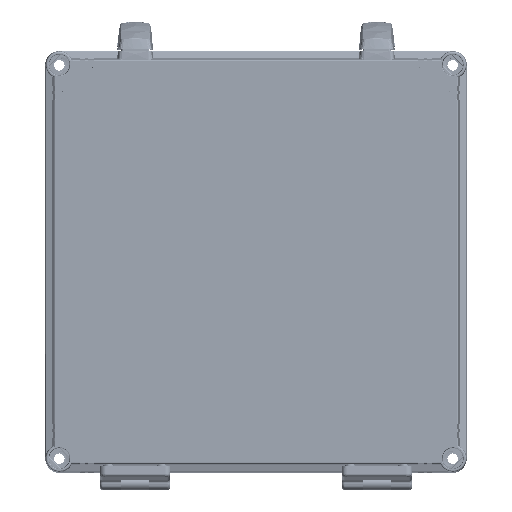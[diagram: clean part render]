
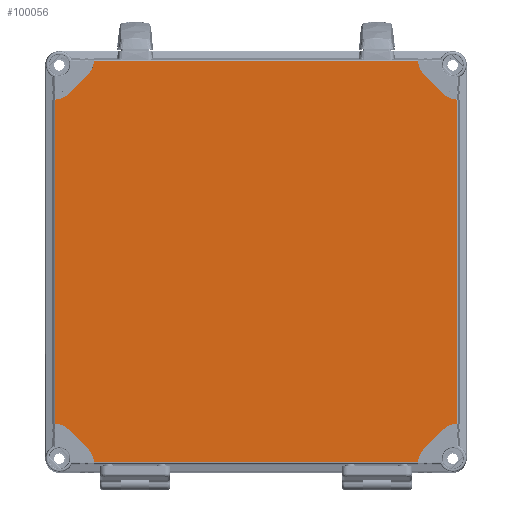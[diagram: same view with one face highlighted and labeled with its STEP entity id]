
A CAD part, top view. The second image highlights one B-rep face of the part: STEP entity #100056.
In plain terms, the highlighted planar face has unit normal (0, 0, 1).
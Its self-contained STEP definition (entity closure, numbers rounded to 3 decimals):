
#85835=CARTESIAN_POINT('',(-129.346,-143.3,30.));
#85836=DIRECTION('',(0.,0.,1.));
#85837=DIRECTION('',(0.999,0.032,0.));
#85838=AXIS2_PLACEMENT_3D('',#85835,#85836,#85837);
#85843=DIRECTION('',(-0.707,0.707,0.));
#85844=VECTOR('',#85843,19.734);
#85845=CARTESIAN_POINT('',(-119.447,-133.401,30.));
#85846=LINE('',#85845,#85844);
#85850=CARTESIAN_POINT('',(-143.3,-129.346,30.));
#85851=DIRECTION('',(0.,0.,1.));
#85852=DIRECTION('',(0.707,0.707,0.));
#85853=AXIS2_PLACEMENT_3D('',#85850,#85851,#85852);
#85858=CARTESIAN_POINT('',(-143.3,129.346,30.));
#85859=DIRECTION('',(0.,0.,1.));
#85860=DIRECTION('',(0.032,-0.999,0.));
#85861=AXIS2_PLACEMENT_3D('',#85858,#85859,#85860);
#85866=DIRECTION('',(0.707,0.707,0.));
#85867=VECTOR('',#85866,19.734);
#85868=CARTESIAN_POINT('',(-133.401,119.447,30.));
#85869=LINE('',#85868,#85867);
#85873=CARTESIAN_POINT('',(-129.346,143.3,30.));
#85874=DIRECTION('',(0.,0.,1.));
#85875=DIRECTION('',(0.707,-0.707,0.));
#85876=AXIS2_PLACEMENT_3D('',#85873,#85874,#85875);
#85881=DIRECTION('',(1.,0.,0.));
#85882=VECTOR('',#85881,230.707);
#85883=CARTESIAN_POINT('',(-115.353,142.851,30.));
#85884=LINE('',#85883,#85882);
#85888=CARTESIAN_POINT('',(129.346,143.3,30.));
#85889=DIRECTION('',(0.,0.,1.));
#85890=DIRECTION('',(-0.999,-0.032,0.));
#85891=AXIS2_PLACEMENT_3D('',#85888,#85889,#85890);
#85896=DIRECTION('',(0.707,-0.707,0.));
#85897=VECTOR('',#85896,19.734);
#85898=CARTESIAN_POINT('',(119.447,133.401,30.));
#85899=LINE('',#85898,#85897);
#85903=CARTESIAN_POINT('',(143.3,129.346,30.));
#85904=DIRECTION('',(0.,0.,1.));
#85905=DIRECTION('',(-0.707,-0.707,0.));
#85906=AXIS2_PLACEMENT_3D('',#85903,#85904,#85905);
#85911=CARTESIAN_POINT('',(143.3,-129.346,30.));
#85912=DIRECTION('',(0.,0.,1.));
#85913=DIRECTION('',(-0.032,0.999,0.));
#85914=AXIS2_PLACEMENT_3D('',#85911,#85912,#85913);
#85919=DIRECTION('',(-0.707,-0.707,0.));
#85920=VECTOR('',#85919,19.734);
#85921=CARTESIAN_POINT('',(133.401,-119.447,30.));
#85922=LINE('',#85921,#85920);
#85926=CARTESIAN_POINT('',(129.346,-143.3,30.));
#85927=DIRECTION('',(0.,0.,1.));
#85928=DIRECTION('',(-0.707,0.707,0.));
#85929=AXIS2_PLACEMENT_3D('',#85926,#85927,#85928);
#89293=DIRECTION('',(1.,0.,0.));
#89294=VECTOR('',#89293,230.707);
#89295=CARTESIAN_POINT('',(-115.353,-142.851,30.));
#89296=LINE('',#89295,#89294);
#89300=CARTESIAN_POINT('',(115.353,-142.851,30.));
#89331=CARTESIAN_POINT('',(-115.353,-142.851,30.));
#89357=DIRECTION('',(0.,1.,0.));
#89358=VECTOR('',#89357,230.707);
#89359=CARTESIAN_POINT('',(142.851,-115.353,30.));
#89360=LINE('',#89359,#89358);
#89428=CARTESIAN_POINT('',(-115.353,142.851,30.));
#89466=CARTESIAN_POINT('',(115.353,142.851,30.));
#89492=DIRECTION('',(0.,-1.,0.));
#89493=VECTOR('',#89492,230.707);
#89494=CARTESIAN_POINT('',(-142.851,115.353,30.));
#89495=LINE('',#89494,#89493);
#96434=CARTESIAN_POINT('',(119.447,133.401,30.));
#96435=CARTESIAN_POINT('',(133.401,119.447,30.));
#96436=VERTEX_POINT('',#96434);
#96437=VERTEX_POINT('',#96435);
#96454=CARTESIAN_POINT('',(-133.401,119.447,30.));
#96455=CARTESIAN_POINT('',(-119.447,133.401,30.));
#96456=VERTEX_POINT('',#96454);
#96457=VERTEX_POINT('',#96455);
#96470=CARTESIAN_POINT('',(133.401,-119.447,30.));
#96471=CARTESIAN_POINT('',(119.447,-133.401,30.));
#96472=VERTEX_POINT('',#96470);
#96473=VERTEX_POINT('',#96471);
#96482=CARTESIAN_POINT('',(-119.447,-133.401,30.));
#96483=CARTESIAN_POINT('',(-133.401,-119.447,30.));
#96484=VERTEX_POINT('',#96482);
#96485=VERTEX_POINT('',#96483);
#96792=VERTEX_POINT('',#89466);
#96804=CARTESIAN_POINT('',(142.851,-115.353,30.));
#96805=CARTESIAN_POINT('',(142.851,115.353,30.));
#96806=VERTEX_POINT('',#96804);
#96807=VERTEX_POINT('',#96805);
#96815=VERTEX_POINT('',#89428);
#96860=CARTESIAN_POINT('',(-142.851,115.353,30.));
#96861=CARTESIAN_POINT('',(-142.851,-115.353,30.));
#96862=VERTEX_POINT('',#96860);
#96863=VERTEX_POINT('',#96861);
#96916=VERTEX_POINT('',#89331);
#96917=VERTEX_POINT('',#89300);
#100017=CARTESIAN_POINT('',(0.,0.,30.));
#100018=DIRECTION('',(0.,0.,1.));
#100019=DIRECTION('',(1.,0.,0.));
#100020=AXIS2_PLACEMENT_3D('',#100017,#100018,#100019);
#100021=PLANE('',#100020);
#100023=ORIENTED_EDGE('',*,*,#100022,.F.);
#100025=ORIENTED_EDGE('',*,*,#100024,.T.);
#100027=ORIENTED_EDGE('',*,*,#100026,.T.);
#100029=ORIENTED_EDGE('',*,*,#100028,.T.);
#100031=ORIENTED_EDGE('',*,*,#100030,.F.);
#100033=ORIENTED_EDGE('',*,*,#100032,.T.);
#100035=ORIENTED_EDGE('',*,*,#100034,.T.);
#100037=ORIENTED_EDGE('',*,*,#100036,.T.);
#100039=ORIENTED_EDGE('',*,*,#100038,.T.);
#100041=ORIENTED_EDGE('',*,*,#100040,.T.);
#100043=ORIENTED_EDGE('',*,*,#100042,.T.);
#100045=ORIENTED_EDGE('',*,*,#100044,.T.);
#100047=ORIENTED_EDGE('',*,*,#100046,.F.);
#100049=ORIENTED_EDGE('',*,*,#100048,.T.);
#100051=ORIENTED_EDGE('',*,*,#100050,.T.);
#100053=ORIENTED_EDGE('',*,*,#100052,.T.);
#100054=EDGE_LOOP('',(#100023,#100025,#100027,#100029,#100031,#100033,#100035,
#100037,#100039,#100041,#100043,#100045,#100047,#100049,#100051,#100053));
#100055=FACE_OUTER_BOUND('',#100054,.F.);
#100056=ADVANCED_FACE('',(#100055),#100021,.T.);
#85839=CIRCLE('',#85838,14.);
#85854=CIRCLE('',#85853,14.);
#85862=CIRCLE('',#85861,14.);
#85877=CIRCLE('',#85876,14.);
#85892=CIRCLE('',#85891,14.);
#85907=CIRCLE('',#85906,14.);
#85915=CIRCLE('',#85914,14.);
#85930=CIRCLE('',#85929,14.);
#100022=EDGE_CURVE('',#96916,#96917,#89296,.T.);
#100024=EDGE_CURVE('',#96916,#96484,#85839,.T.);
#100026=EDGE_CURVE('',#96484,#96485,#85846,.T.);
#100028=EDGE_CURVE('',#96485,#96863,#85854,.T.);
#100030=EDGE_CURVE('',#96862,#96863,#89495,.T.);
#100032=EDGE_CURVE('',#96862,#96456,#85862,.T.);
#100034=EDGE_CURVE('',#96456,#96457,#85869,.T.);
#100036=EDGE_CURVE('',#96457,#96815,#85877,.T.);
#100038=EDGE_CURVE('',#96815,#96792,#85884,.T.);
#100040=EDGE_CURVE('',#96792,#96436,#85892,.T.);
#100042=EDGE_CURVE('',#96436,#96437,#85899,.T.);
#100044=EDGE_CURVE('',#96437,#96807,#85907,.T.);
#100046=EDGE_CURVE('',#96806,#96807,#89360,.T.);
#100048=EDGE_CURVE('',#96806,#96472,#85915,.T.);
#100050=EDGE_CURVE('',#96472,#96473,#85922,.T.);
#100052=EDGE_CURVE('',#96473,#96917,#85930,.T.);
